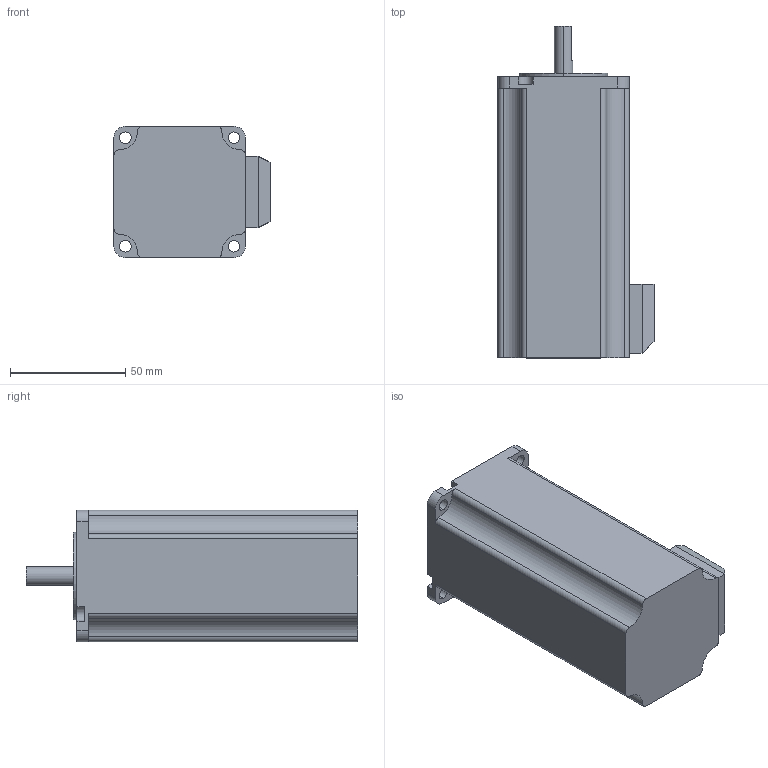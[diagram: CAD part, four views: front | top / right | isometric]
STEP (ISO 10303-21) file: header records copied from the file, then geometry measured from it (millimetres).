
FILE_DESCRIPTION (( 'STEP AP214' ), '1' );
FILE_NAME ('57A3ECZ（57HSM102-D0822-006）.STEP', '2020-04-07T11:50:56', ( 'wimxt.com' ), ( 'wimxt.com' ), 'SwSTEP 2.0', 'SolidWorks 2014', '' );
FILE_SCHEMA (( 'AUTOMOTIVE_DESIGN' ));
Length unit declared in the file: millimetre
Products named in the file (1): 57A3ECZ（57HSM102-D0822-006）
Bounding box: 67.7 x 144 x 57 mm (x, y, z)
Volume: 361382.5 mm3; surface area: 36922.1 mm2
Topology: 1 solids, 1 shells, 85 faces, 222 edges, 148 vertices
Faces by surface type: cylinder 45, plane 40
Entity records: 2698 total; most frequent: DIRECTION 486, CARTESIAN_POINT 456, ORIENTED_EDGE 444, EDGE_CURVE 222, AXIS2_PLACEMENT_3D 178, VERTEX_POINT 148, LINE 130, VECTOR 130
